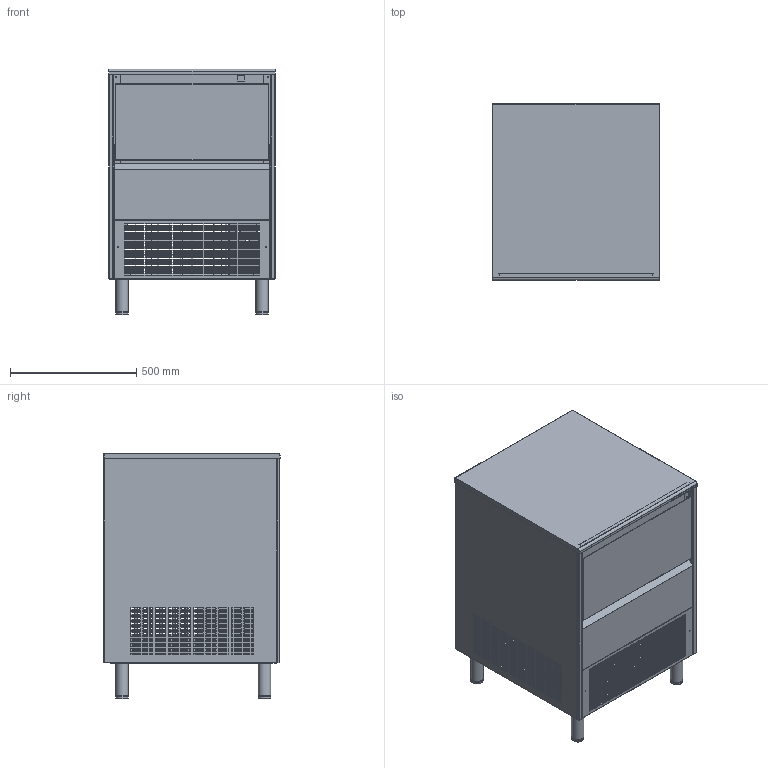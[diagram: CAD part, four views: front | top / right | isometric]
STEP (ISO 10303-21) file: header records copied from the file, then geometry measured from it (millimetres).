
FILE_DESCRIPTION(/* description */ ('Unknown'),/* implementation_level */ '2;1');
FILE_NAME(/* name */ 'ICE TECH FD-HD 90-110',/* time_stamp */ '2018-04-20T12:49:14+02:00',/* author */ ('Unknown'),/* organization */ ('Unknown'),/* preprocessor_version */ 'ST-DEVELOPER v16.7',/* originating_system */ 'DEX',/* authorisation */ $);
FILE_SCHEMA (('CONFIG_CONTROL_DESIGN'));
Products named in the file (17): SPIKA-80-100; SPIKA-NG-80-100+carroceria_oa_0; 32-1+6256_r01; 32-3+6261_R01; 32-10+SPIKA-80-100_IZQ; 32-3+6260_R01; 32-44+8699; 32-6+6279; 32-11+6295_oa_1; 32-12+6289; 32-9+6283; 32-10+SPIKA-80-100_DRCH; 32-25+6300; 32-47+6281; 32-5+30253; 7-128; 7-144
Assembly tree (19 placements, depth 4):
  SPIKA-80-100
    SPIKA-NG-80-100+carroceria_oa_0
      32-1+6256_r01
      32-3+6261_R01
      32-10+SPIKA-80-100_IZQ
      32-3+6260_R01
      32-44+8699
      32-6+6279
      32-11+6295_oa_1
        32-12+6289
      32-9+6283
      32-10+SPIKA-80-100_DRCH
      32-25+6300
      32-47+6281
      32-5+30253
      7-128
    7-144  x4
Bounding box: 660 x 700.2 x 973.4 mm (x, y, z)
Volume: 3988947.8 mm3; surface area: 7204746.6 mm2
Topology: 17 solids, 17 shells, 3382 faces, 9864 edges, 6588 vertices
Faces by surface type: plane 2349, cylinder 1004, torus 23, bspline 6
Full cylindrical faces by diameter (mm): 2.4 x21, 2.5 x23, 2.7 x4, 2.75 x5, 2.9 x17, 3.5 x20, 4 x9, 4.25 x60, 5 x11, 6 x27, 7 x12, 8 x3, 9 x2, 10 x4, 13 x2, 30 x2, 32.8 x4, 39 x4, 40 x4, 43 x4, 50 x8
Entity records: 113107 total; most frequent: CARTESIAN_POINT 20162, ORIENTED_EDGE 18914, DIRECTION 17969, EDGE_CURVE 9457, LINE 7351, VECTOR 7351, VERTEX_POINT 6451, EDGE_LOOP 5414
